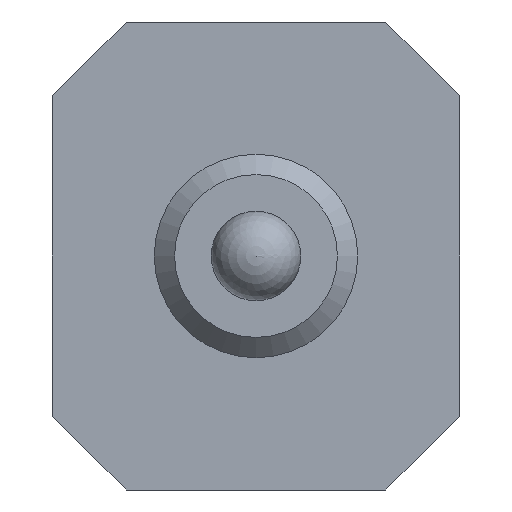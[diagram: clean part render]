
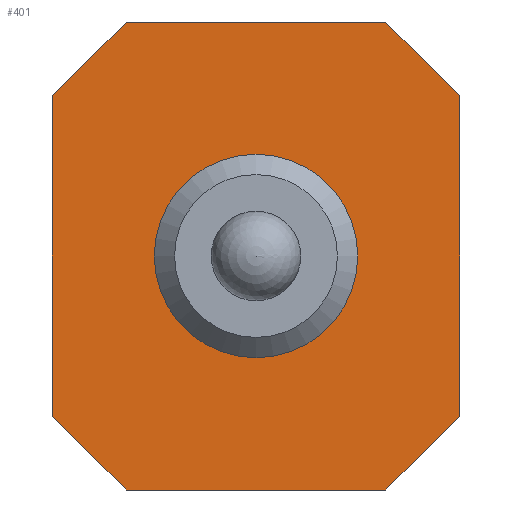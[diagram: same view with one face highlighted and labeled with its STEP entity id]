
A CAD part, front view. The second image highlights one B-rep face of the part: STEP entity #401.
In plain terms, the highlighted planar face has unit normal (0, -1, 0).
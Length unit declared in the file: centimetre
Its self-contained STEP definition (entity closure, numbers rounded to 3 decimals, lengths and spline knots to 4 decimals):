
#18=VECTOR('',#601,1.);
#19=VECTOR('',#602,1.);
#20=VECTOR('',#603,1.);
#21=VECTOR('',#604,1.);
#22=VECTOR('',#605,1.);
#23=VECTOR('',#606,1.);
#24=VECTOR('',#607,1.);
#25=VECTOR('',#608,1.);
#42=LINE('',#496,#18);
#43=LINE('',#499,#19);
#44=LINE('',#501,#20);
#45=LINE('',#503,#21);
#46=LINE('',#505,#22);
#47=LINE('',#507,#23);
#48=LINE('',#509,#24);
#49=LINE('',#511,#25);
#137=PLANE('',#439);
#166=VERTEX_POINT('',#494);
#167=VERTEX_POINT('',#497);
#168=VERTEX_POINT('',#498);
#169=VERTEX_POINT('',#500);
#170=VERTEX_POINT('',#502);
#171=VERTEX_POINT('',#504);
#172=VERTEX_POINT('',#506);
#173=VERTEX_POINT('',#508);
#174=VERTEX_POINT('',#510);
#196=CIRCLE('',#438,0.0635);
#210=EDGE_CURVE('',#166,#166,#196,.T.);
#211=EDGE_CURVE('',#167,#168,#42,.T.);
#212=EDGE_CURVE('',#169,#167,#43,.T.);
#213=EDGE_CURVE('',#170,#169,#44,.T.);
#214=EDGE_CURVE('',#171,#170,#45,.T.);
#215=EDGE_CURVE('',#172,#171,#46,.T.);
#216=EDGE_CURVE('',#173,#172,#47,.T.);
#217=EDGE_CURVE('',#174,#173,#48,.T.);
#218=EDGE_CURVE('',#168,#174,#49,.T.);
#261=ORIENTED_EDGE('',*,*,#210,.T.);
#262=ORIENTED_EDGE('',*,*,#211,.F.);
#263=ORIENTED_EDGE('',*,*,#212,.F.);
#264=ORIENTED_EDGE('',*,*,#213,.F.);
#265=ORIENTED_EDGE('',*,*,#214,.F.);
#266=ORIENTED_EDGE('',*,*,#215,.F.);
#267=ORIENTED_EDGE('',*,*,#216,.F.);
#268=ORIENTED_EDGE('',*,*,#217,.F.);
#269=ORIENTED_EDGE('',*,*,#218,.F.);
#337=EDGE_LOOP('',(#261));
#338=EDGE_LOOP('',(#262,#263,#264,#265,#266,#267,#268,#269));
#375=FACE_BOUND('',#337,.T.);
#376=FACE_BOUND('',#338,.T.);
#401=ADVANCED_FACE('',(#375,#376),#137,.F.);
#438=AXIS2_PLACEMENT_3D('',#493,#598,#599);
#439=AXIS2_PLACEMENT_3D('',#495,#600,$);
#493=CARTESIAN_POINT('',(0.,0.1397,0.));
#494=CARTESIAN_POINT('',(-0.0635,0.1397,0.));
#495=CARTESIAN_POINT('',(-0.0055,0.1397,0.0042));
#496=CARTESIAN_POINT('',(0.127,0.1397,0.0021));
#497=CARTESIAN_POINT('',(0.127,0.1397,0.1));
#498=CARTESIAN_POINT('',(0.127,0.1397,-0.1));
#499=CARTESIAN_POINT('',(0.1063,0.1397,0.1207));
#500=CARTESIAN_POINT('',(0.081,0.1397,0.146));
#501=CARTESIAN_POINT('',(-0.0027,0.1397,0.146));
#502=CARTESIAN_POINT('',(-0.081,0.1397,0.146));
#503=CARTESIAN_POINT('',(-0.1091,0.1397,0.1179));
#504=CARTESIAN_POINT('',(-0.127,0.1397,0.1));
#505=CARTESIAN_POINT('',(-0.127,0.1397,0.0021));
#506=CARTESIAN_POINT('',(-0.127,0.1397,-0.1));
#507=CARTESIAN_POINT('',(-0.1112,0.1397,-0.1158));
#508=CARTESIAN_POINT('',(-0.081,0.1397,-0.146));
#509=CARTESIAN_POINT('',(-0.0027,0.1397,-0.146));
#510=CARTESIAN_POINT('',(0.081,0.1397,-0.146));
#511=CARTESIAN_POINT('',(0.1084,0.1397,-0.1186));
#598=DIRECTION('',(0.,1.,0.));
#599=DIRECTION('',(0.064,0.,0.));
#600=DIRECTION('',(0.,1.,0.));
#601=DIRECTION('',(0.,0.,-1.));
#602=DIRECTION('',(0.707,0.,-0.707));
#603=DIRECTION('',(1.,0.,0.));
#604=DIRECTION('',(0.707,0.,0.707));
#605=DIRECTION('',(0.,0.,1.));
#606=DIRECTION('',(-0.707,0.,0.707));
#607=DIRECTION('',(-1.,0.,0.));
#608=DIRECTION('',(-0.707,0.,-0.707));
